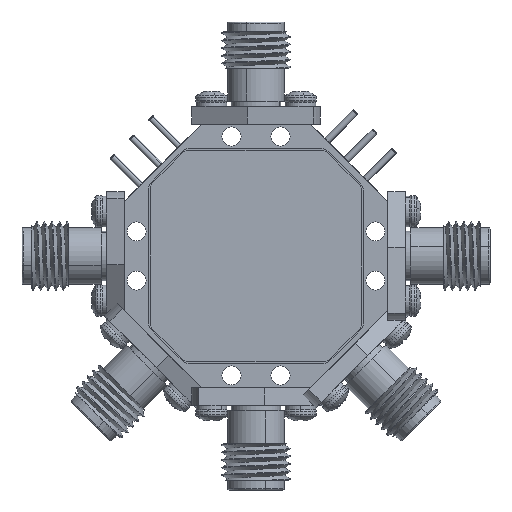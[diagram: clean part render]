
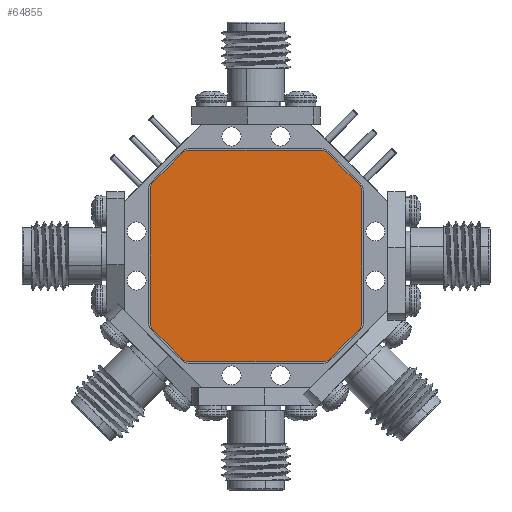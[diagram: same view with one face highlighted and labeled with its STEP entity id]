
A CAD part, front view. The second image highlights one B-rep face of the part: STEP entity #64855.
In plain terms, the highlighted planar face has unit normal (0, -1, 0).
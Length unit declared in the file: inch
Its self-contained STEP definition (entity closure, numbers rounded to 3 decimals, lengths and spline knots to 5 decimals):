
#150 = EDGE_CURVE ( 'NONE', #53269, #79767, #105818, .T. ) ;
#404 = LINE ( 'NONE', #80664, #45662 ) ;
#1264 = AXIS2_PLACEMENT_3D ( 'NONE', #91723, #47763, #32072 ) ;
#2650 = LINE ( 'NONE', #19393, #28963 ) ;
#3281 = EDGE_CURVE ( 'NONE', #98171, #81933, #59903, .T. ) ;
#3919 = ORIENTED_EDGE ( 'NONE', *, *, #99651, .T. ) ;
#3957 = DIRECTION ( 'NONE',  ( -1., 0., 0. ) ) ;
#4611 = VERTEX_POINT ( 'NONE', #114013 ) ;
#5139 = EDGE_CURVE ( 'NONE', #37786, #8679, #43370, .T. ) ;
#6384 = CARTESIAN_POINT ( 'NONE',  ( 0.19746, 0.01397, -0.12556 ) ) ;
#6514 = VECTOR ( 'NONE', #111843, 39.37008 ) ;
#7018 = EDGE_CURVE ( 'NONE', #79078, #92118, #79894, .T. ) ;
#7378 = ORIENTED_EDGE ( 'NONE', *, *, #150, .T. ) ;
#8679 = VERTEX_POINT ( 'NONE', #106146 ) ;
#9933 = EDGE_LOOP ( 'NONE', ( #20001, #3919, #113012, #100745, #87965, #31041, #39408, #46268, #99764, #50211, #71733, #7378, #113236, #40103, #91858, #67462 ) ) ;
#10809 = AXIS2_PLACEMENT_3D ( 'NONE', #89655, #30067, #91944 ) ;
#13413 = EDGE_CURVE ( 'NONE', #81933, #79078, #58759, .T. ) ;
#14852 = LINE ( 'NONE', #111920, #96780 ) ;
#16090 = EDGE_CURVE ( 'NONE', #88601, #53269, #74878, .T. ) ;
#17686 = DIRECTION ( 'NONE',  ( 0.707, 0., 0.707 ) ) ;
#18722 = CARTESIAN_POINT ( 'NONE',  ( -0.28838, 0.01397, -0.86956 ) ) ;
#19393 = CARTESIAN_POINT ( 'NONE',  ( -0.28838, 0.01397, -0.86956 ) ) ;
#20001 = ORIENTED_EDGE ( 'NONE', *, *, #7018, .T. ) ;
#22328 = PLANE ( 'NONE',  #1264 ) ;
#22358 = DIRECTION ( 'NONE',  ( 0., 0., -1. ) ) ;
#23020 = DIRECTION ( 'NONE',  ( 0., 0., 1. ) ) ;
#24330 = VECTOR ( 'NONE', #86174, 39.37008 ) ;
#24548 = AXIS2_PLACEMENT_3D ( 'NONE', #96753, #51705, #25112 ) ;
#24883 = AXIS2_PLACEMENT_3D ( 'NONE', #96601, #61399, #55016 ) ;
#25112 = DIRECTION ( 'NONE',  ( -1., 0., 0. ) ) ;
#28790 = CARTESIAN_POINT ( 'NONE',  ( -0.28838, 0.01397, -0.12556 ) ) ;
#28963 = VECTOR ( 'NONE', #35568, 39.37008 ) ;
#29435 = CIRCLE ( 'NONE', #77459, 0.032 ) ;
#30067 = DIRECTION ( 'NONE',  ( 0., -1., 0. ) ) ;
#31041 = ORIENTED_EDGE ( 'NONE', *, *, #84555, .T. ) ;
#32072 = DIRECTION ( 'NONE',  ( -1., 0., 0. ) ) ;
#32416 = VECTOR ( 'NONE', #23020, 39.37008 ) ;
#32748 = DIRECTION ( 'NONE',  ( -0.707, 0., -0.707 ) ) ;
#33244 = LINE ( 'NONE', #52887, #6514 ) ;
#33541 = CARTESIAN_POINT ( 'NONE',  ( 0.19746, 0.01397, -0.09356 ) ) ;
#34884 = VERTEX_POINT ( 'NONE', #100882 ) ;
#35568 = DIRECTION ( 'NONE',  ( 1., 0., 0. ) ) ;
#37270 = AXIS2_PLACEMENT_3D ( 'NONE', #45441, #89960, #72610 ) ;
#37786 = VERTEX_POINT ( 'NONE', #73374 ) ;
#38242 = VERTEX_POINT ( 'NONE', #46779 ) ;
#38453 = CIRCLE ( 'NONE', #10809, 0.032 ) ;
#38685 = EDGE_CURVE ( 'NONE', #71298, #77977, #2650, .T. ) ;
#39408 = ORIENTED_EDGE ( 'NONE', *, *, #60607, .T. ) ;
#40103 = ORIENTED_EDGE ( 'NONE', *, *, #107594, .T. ) ;
#41572 = DIRECTION ( 'NONE',  ( -1., 0., 0. ) ) ;
#42268 = CARTESIAN_POINT ( 'NONE',  ( 0.19746, 0.01397, -0.09356 ) ) ;
#43370 = CIRCLE ( 'NONE', #24883, 0.032 ) ;
#43755 = CIRCLE ( 'NONE', #99151, 0.032 ) ;
#45441 = CARTESIAN_POINT ( 'NONE',  ( -0.28838, 0.01397, -0.83756 ) ) ;
#45662 = VECTOR ( 'NONE', #17686, 39.37008 ) ;
#46268 = ORIENTED_EDGE ( 'NONE', *, *, #47968, .T. ) ;
#46459 = CIRCLE ( 'NONE', #37270, 0.032 ) ;
#46779 = CARTESIAN_POINT ( 'NONE',  ( -0.311, 0.01397, -0.10293 ) ) ;
#47763 = DIRECTION ( 'NONE',  ( 0., -1., 0. ) ) ;
#47968 = EDGE_CURVE ( 'NONE', #34884, #37786, #75610, .T. ) ;
#50211 = ORIENTED_EDGE ( 'NONE', *, *, #83696, .T. ) ;
#51705 = DIRECTION ( 'NONE',  ( 0., -1., 0. ) ) ;
#52170 = DIRECTION ( 'NONE',  ( 1., 0., 0. ) ) ;
#52887 = CARTESIAN_POINT ( 'NONE',  ( -0.42055, 0.01397, -0.75064 ) ) ;
#53269 = VERTEX_POINT ( 'NONE', #33541 ) ;
#54515 = EDGE_CURVE ( 'NONE', #79767, #38242, #43755, .T. ) ;
#54576 = AXIS2_PLACEMENT_3D ( 'NONE', #6384, #75165, #41572 ) ;
#55016 = DIRECTION ( 'NONE',  ( 1., 0., 0. ) ) ;
#55427 = CARTESIAN_POINT ( 'NONE',  ( -0.42992, 0.01397, -0.72801 ) ) ;
#58759 = LINE ( 'NONE', #76072, #109455 ) ;
#59903 = CIRCLE ( 'NONE', #106032, 0.032 ) ;
#60607 = EDGE_CURVE ( 'NONE', #4611, #34884, #29435, .T. ) ;
#61399 = DIRECTION ( 'NONE',  ( 0., -1., 0. ) ) ;
#61444 = CARTESIAN_POINT ( 'NONE',  ( 0.31408, 0.01397, -0.72801 ) ) ;
#63219 = LINE ( 'NONE', #81073, #100499 ) ;
#64203 = CARTESIAN_POINT ( 'NONE',  ( 0.20453, 0.01397, -0.86956 ) ) ;
#64653 = DIRECTION ( 'NONE',  ( 0., -1., 0. ) ) ;
#64855 = ADVANCED_FACE ( 'NONE', ( #82461 ), #22328, .T. ) ;
#67462 = ORIENTED_EDGE ( 'NONE', *, *, #13413, .T. ) ;
#71298 = VERTEX_POINT ( 'NONE', #18722 ) ;
#71733 = ORIENTED_EDGE ( 'NONE', *, *, #16090, .T. ) ;
#71956 = CARTESIAN_POINT ( 'NONE',  ( -0.42055, 0.01397, -0.75064 ) ) ;
#72610 = DIRECTION ( 'NONE',  ( -1., 0., 0. ) ) ;
#73374 = CARTESIAN_POINT ( 'NONE',  ( 0.34608, 0.01397, -0.24217 ) ) ;
#74878 = CIRCLE ( 'NONE', #54576, 0.032 ) ;
#75165 = DIRECTION ( 'NONE',  ( 0., -1., 0. ) ) ;
#75610 = LINE ( 'NONE', #84270, #32416 ) ;
#76072 = CARTESIAN_POINT ( 'NONE',  ( -0.42992, 0.01397, -0.2351 ) ) ;
#77459 = AXIS2_PLACEMENT_3D ( 'NONE', #61444, #96660, #52170 ) ;
#77977 = VERTEX_POINT ( 'NONE', #64203 ) ;
#78122 = CARTESIAN_POINT ( 'NONE',  ( -0.42992, 0.01397, -0.2351 ) ) ;
#79078 = VERTEX_POINT ( 'NONE', #55427 ) ;
#79767 = VERTEX_POINT ( 'NONE', #82815 ) ;
#79894 = CIRCLE ( 'NONE', #24548, 0.032 ) ;
#80652 = CARTESIAN_POINT ( 'NONE',  ( -0.42055, 0.01397, -0.21247 ) ) ;
#80664 = CARTESIAN_POINT ( 'NONE',  ( 0.22716, 0.01397, -0.86018 ) ) ;
#81073 = CARTESIAN_POINT ( 'NONE',  ( 0.33671, 0.01397, -0.21954 ) ) ;
#81933 = VERTEX_POINT ( 'NONE', #78122 ) ;
#82125 = EDGE_CURVE ( 'NONE', #113675, #71298, #46459, .T. ) ;
#82461 = FACE_OUTER_BOUND ( 'NONE', #9933, .T. ) ;
#82815 = CARTESIAN_POINT ( 'NONE',  ( -0.28838, 0.01397, -0.09356 ) ) ;
#83696 = EDGE_CURVE ( 'NONE', #8679, #88601, #63219, .T. ) ;
#84270 = CARTESIAN_POINT ( 'NONE',  ( 0.34608, 0.01397, -0.72801 ) ) ;
#84555 = EDGE_CURVE ( 'NONE', #108873, #4611, #404, .T. ) ;
#86174 = DIRECTION ( 'NONE',  ( -1., 0., 0. ) ) ;
#87965 = ORIENTED_EDGE ( 'NONE', *, *, #102609, .T. ) ;
#88601 = VERTEX_POINT ( 'NONE', #103532 ) ;
#89655 = CARTESIAN_POINT ( 'NONE',  ( 0.20453, 0.01397, -0.83756 ) ) ;
#89960 = DIRECTION ( 'NONE',  ( 0., -1., 0. ) ) ;
#91723 = CARTESIAN_POINT ( 'NONE',  ( -0.39792, 0.01397, -0.72801 ) ) ;
#91858 = ORIENTED_EDGE ( 'NONE', *, *, #3281, .T. ) ;
#91944 = DIRECTION ( 'NONE',  ( -1., 0., 0. ) ) ;
#92118 = VERTEX_POINT ( 'NONE', #71956 ) ;
#93505 = CARTESIAN_POINT ( 'NONE',  ( -0.39792, 0.01397, -0.2351 ) ) ;
#96601 = CARTESIAN_POINT ( 'NONE',  ( 0.31408, 0.01397, -0.24217 ) ) ;
#96660 = DIRECTION ( 'NONE',  ( 0., -1., 0. ) ) ;
#96753 = CARTESIAN_POINT ( 'NONE',  ( -0.39792, 0.01397, -0.72801 ) ) ;
#96780 = VECTOR ( 'NONE', #32748, 39.37008 ) ;
#98171 = VERTEX_POINT ( 'NONE', #80652 ) ;
#98423 = DIRECTION ( 'NONE',  ( -0.707, 0., 0.707 ) ) ;
#99151 = AXIS2_PLACEMENT_3D ( 'NONE', #28790, #64653, #3957 ) ;
#99651 = EDGE_CURVE ( 'NONE', #92118, #113675, #33244, .T. ) ;
#99764 = ORIENTED_EDGE ( 'NONE', *, *, #5139, .T. ) ;
#100499 = VECTOR ( 'NONE', #98423, 39.37008 ) ;
#100745 = ORIENTED_EDGE ( 'NONE', *, *, #38685, .T. ) ;
#100882 = CARTESIAN_POINT ( 'NONE',  ( 0.34608, 0.01397, -0.72801 ) ) ;
#102609 = EDGE_CURVE ( 'NONE', #77977, #108873, #38453, .T. ) ;
#103532 = CARTESIAN_POINT ( 'NONE',  ( 0.22009, 0.01397, -0.10293 ) ) ;
#105818 = LINE ( 'NONE', #42268, #24330 ) ;
#106032 = AXIS2_PLACEMENT_3D ( 'NONE', #93505, #111989, #110860 ) ;
#106146 = CARTESIAN_POINT ( 'NONE',  ( 0.33671, 0.01397, -0.21954 ) ) ;
#106582 = CARTESIAN_POINT ( 'NONE',  ( -0.311, 0.01397, -0.86018 ) ) ;
#107594 = EDGE_CURVE ( 'NONE', #38242, #98171, #14852, .T. ) ;
#108033 = CARTESIAN_POINT ( 'NONE',  ( 0.22716, 0.01397, -0.86018 ) ) ;
#108873 = VERTEX_POINT ( 'NONE', #108033 ) ;
#109455 = VECTOR ( 'NONE', #22358, 39.37008 ) ;
#110860 = DIRECTION ( 'NONE',  ( -1., 0., 0. ) ) ;
#111843 = DIRECTION ( 'NONE',  ( 0.707, 0., -0.707 ) ) ;
#111920 = CARTESIAN_POINT ( 'NONE',  ( -0.311, 0.01397, -0.10293 ) ) ;
#111989 = DIRECTION ( 'NONE',  ( 0., -1., 0. ) ) ;
#113012 = ORIENTED_EDGE ( 'NONE', *, *, #82125, .T. ) ;
#113236 = ORIENTED_EDGE ( 'NONE', *, *, #54515, .T. ) ;
#113675 = VERTEX_POINT ( 'NONE', #106582 ) ;
#114013 = CARTESIAN_POINT ( 'NONE',  ( 0.33671, 0.01397, -0.75064 ) ) ;
